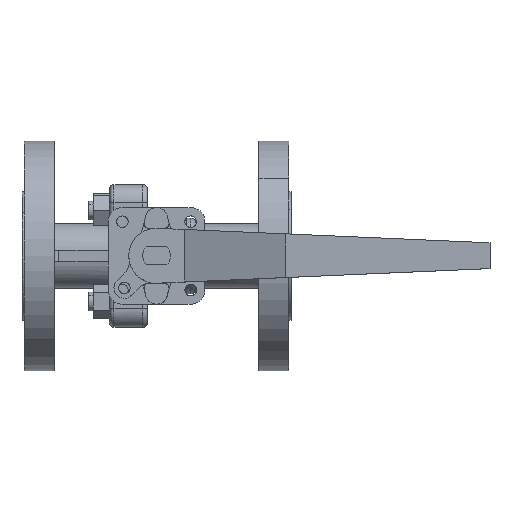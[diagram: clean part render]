
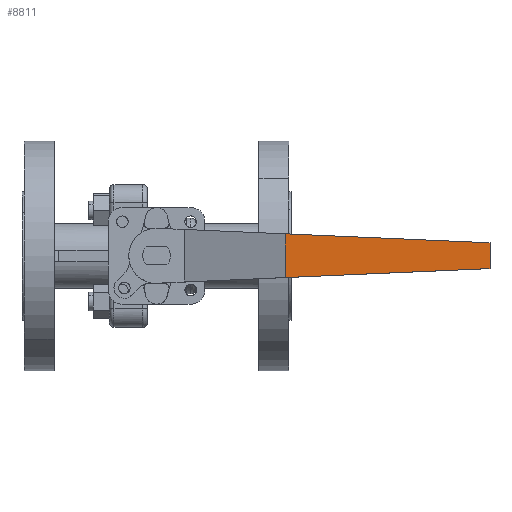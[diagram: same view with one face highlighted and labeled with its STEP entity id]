
A CAD part, top view. The second image highlights one B-rep face of the part: STEP entity #8811.
In plain terms, the highlighted free-form (B-spline) face has degree [1, 1] with [2, 2] control points.
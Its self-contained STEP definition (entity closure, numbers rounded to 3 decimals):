
#8753=CARTESIAN_POINT('',(56.01,79.,-9.505));
#8754=VERTEX_POINT('',#8753);
#8769=CARTESIAN_POINT('',(56.01,79.,9.505));
#8770=VERTEX_POINT('',#8769);
#8776=CARTESIAN_POINT('',(56.01,79.,9.505));
#8777=CARTESIAN_POINT('',(56.01,79.,-9.505));
#8778=QUASI_UNIFORM_CURVE('',1,(#8776,#8777),.UNSPECIFIED.,.F.,.U.);
#8779=EDGE_CURVE('',#8770,#8754,#8778,.T.);
#8784=CARTESIAN_POINT('',(51.565,79.,-10.454));
#8785=CARTESIAN_POINT('',(149.445,79.,-10.454));
#8786=CARTESIAN_POINT('',(51.565,79.,10.454));
#8787=CARTESIAN_POINT('',(149.445,79.,10.454));
#8788=B_SPLINE_SURFACE_WITH_KNOTS('',1,1,((#8784,#8786),(#8785,#8787)),.UNSPECIFIED.,.F.,.F.,.U.,(2,2),(2,2),(0.,97.881),(0.,20.908),.UNSPECIFIED.);
#8789=CARTESIAN_POINT('',(145.,79.,-5.619));
#8790=VERTEX_POINT('',#8789);
#8791=CARTESIAN_POINT('',(145.,79.,-5.619));
#8792=CARTESIAN_POINT('',(56.01,79.,-9.505));
#8793=QUASI_UNIFORM_CURVE('',1,(#8791,#8792),.UNSPECIFIED.,.F.,.U.);
#8794=EDGE_CURVE('',#8790,#8754,#8793,.T.);
#8795=ORIENTED_EDGE('',*,*,#8794,.T.);
#8796=ORIENTED_EDGE('',*,*,#8779,.F.);
#8797=CARTESIAN_POINT('',(145.,79.,5.619));
#8798=VERTEX_POINT('',#8797);
#8799=CARTESIAN_POINT('',(145.,79.,5.619));
#8800=CARTESIAN_POINT('',(56.01,79.,9.505));
#8801=QUASI_UNIFORM_CURVE('',1,(#8799,#8800),.UNSPECIFIED.,.F.,.U.);
#8802=EDGE_CURVE('',#8798,#8770,#8801,.T.);
#8803=ORIENTED_EDGE('',*,*,#8802,.F.);
#8804=CARTESIAN_POINT('',(145.,79.,5.619));
#8805=CARTESIAN_POINT('',(145.,79.,-5.619));
#8806=QUASI_UNIFORM_CURVE('',1,(#8804,#8805),.UNSPECIFIED.,.F.,.U.);
#8807=EDGE_CURVE('',#8798,#8790,#8806,.T.);
#8808=ORIENTED_EDGE('',*,*,#8807,.T.);
#8809=EDGE_LOOP('',(#8795,#8796,#8803,#8808));
#8810=FACE_OUTER_BOUND('',#8809,.T.);
#8811=ADVANCED_FACE('',(#8810),#8788,.F.);
